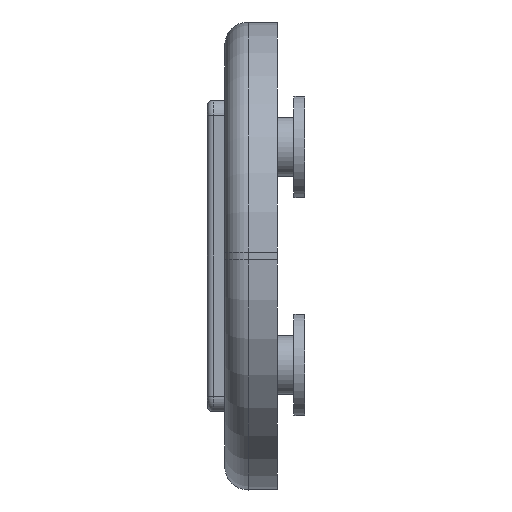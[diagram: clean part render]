
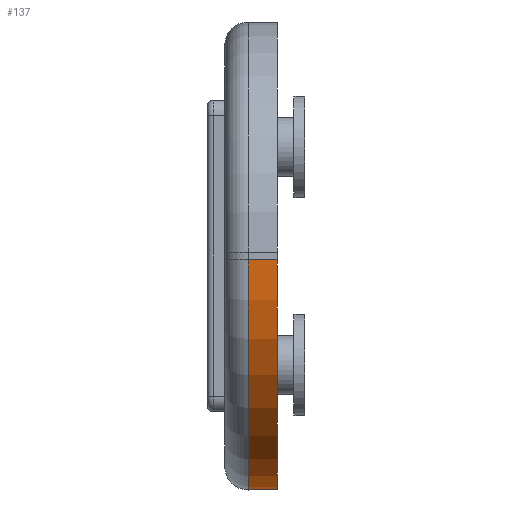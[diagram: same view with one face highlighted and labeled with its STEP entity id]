
A CAD part, front view. The second image highlights one B-rep face of the part: STEP entity #137.
In plain terms, the highlighted cylindrical face has radius 5.9 mm (diameter 11.8 mm), a partial arc.
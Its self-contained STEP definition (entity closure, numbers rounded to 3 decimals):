
#21 = EDGE_CURVE('',#22,#24,#26,.T.);
#22 = VERTEX_POINT('',#23);
#23 = CARTESIAN_POINT('',(-40.85,-15.,-12.1));
#24 = VERTEX_POINT('',#25);
#25 = CARTESIAN_POINT('',(-40.1,-15.,-12.1));
#26 = SURFACE_CURVE('',#27,(#31,#43),.PCURVE_S1.);
#27 = LINE('',#28,#29);
#28 = CARTESIAN_POINT('',(-41.45,-15.,-12.1));
#29 = VECTOR('',#30,1.);
#30 = DIRECTION('',(1.,0.,0.));
#31 = PCURVE('',#32,#37);
#32 = PLANE('',#33);
#33 = AXIS2_PLACEMENT_3D('',#34,#35,#36);
#34 = CARTESIAN_POINT('',(-41.45,-15.,-12.1));
#35 = DIRECTION('',(0.,-1.,0.));
#36 = DIRECTION('',(0.,0.,1.));
#37 = DEFINITIONAL_REPRESENTATION('',(#38),#42);
#38 = LINE('',#39,#40);
#39 = CARTESIAN_POINT('',(0.,0.));
#40 = VECTOR('',#41,1.);
#41 = DIRECTION('',(0.,-1.));
#42 = ( GEOMETRIC_REPRESENTATION_CONTEXT(2) 
PARAMETRIC_REPRESENTATION_CONTEXT() REPRESENTATION_CONTEXT('2D SPACE',''
  ) );
#43 = PCURVE('',#44,#49);
#44 = CYLINDRICAL_SURFACE('',#45,5.9);
#45 = AXIS2_PLACEMENT_3D('',#46,#47,#48);
#46 = CARTESIAN_POINT('',(-41.45,-9.1,-12.1));
#47 = DIRECTION('',(-1.,0.,0.));
#48 = DIRECTION('',(0.,-1.,0.));
#49 = DEFINITIONAL_REPRESENTATION('',(#50),#54);
#50 = LINE('',#51,#52);
#51 = CARTESIAN_POINT('',(6.283,0.));
#52 = VECTOR('',#53,1.);
#53 = DIRECTION('',(0.,-1.));
#54 = ( GEOMETRIC_REPRESENTATION_CONTEXT(2) 
PARAMETRIC_REPRESENTATION_CONTEXT() REPRESENTATION_CONTEXT('2D SPACE',''
  ) );
#72 = PLANE('',#73);
#73 = AXIS2_PLACEMENT_3D('',#74,#75,#76);
#74 = CARTESIAN_POINT('',(-40.1,12.,-12.));
#75 = DIRECTION('',(1.,0.,0.));
#76 = DIRECTION('',(0.,1.,0.));
#137 = ADVANCED_FACE('',(#138),#44,.T.);
#138 = FACE_BOUND('',#139,.T.);
#139 = EDGE_LOOP('',(#140,#170,#196,#197));
#140 = ORIENTED_EDGE('',*,*,#141,.T.);
#141 = EDGE_CURVE('',#142,#144,#146,.T.);
#142 = VERTEX_POINT('',#143);
#143 = CARTESIAN_POINT('',(-40.85,-9.1,-18.));
#144 = VERTEX_POINT('',#145);
#145 = CARTESIAN_POINT('',(-40.1,-9.1,-18.));
#146 = SURFACE_CURVE('',#147,(#151,#158),.PCURVE_S1.);
#147 = LINE('',#148,#149);
#148 = CARTESIAN_POINT('',(-41.45,-9.1,-18.));
#149 = VECTOR('',#150,1.);
#150 = DIRECTION('',(1.,0.,0.));
#151 = PCURVE('',#44,#152);
#152 = DEFINITIONAL_REPRESENTATION('',(#153),#157);
#153 = LINE('',#154,#155);
#154 = CARTESIAN_POINT('',(4.712,0.));
#155 = VECTOR('',#156,1.);
#156 = DIRECTION('',(0.,-1.));
#157 = ( GEOMETRIC_REPRESENTATION_CONTEXT(2) 
PARAMETRIC_REPRESENTATION_CONTEXT() REPRESENTATION_CONTEXT('2D SPACE',''
  ) );
#158 = PCURVE('',#159,#164);
#159 = PLANE('',#160);
#160 = AXIS2_PLACEMENT_3D('',#161,#162,#163);
#161 = CARTESIAN_POINT('',(-41.45,-9.1,-18.));
#162 = DIRECTION('',(0.,0.,1.));
#163 = DIRECTION('',(0.,1.,0.));
#164 = DEFINITIONAL_REPRESENTATION('',(#165),#169);
#165 = LINE('',#166,#167);
#166 = CARTESIAN_POINT('',(0.,0.));
#167 = VECTOR('',#168,1.);
#168 = DIRECTION('',(0.,-1.));
#169 = ( GEOMETRIC_REPRESENTATION_CONTEXT(2) 
PARAMETRIC_REPRESENTATION_CONTEXT() REPRESENTATION_CONTEXT('2D SPACE',''
  ) );
#170 = ORIENTED_EDGE('',*,*,#171,.T.);
#171 = EDGE_CURVE('',#144,#24,#172,.T.);
#172 = SURFACE_CURVE('',#173,(#178,#185),.PCURVE_S1.);
#173 = CIRCLE('',#174,5.9);
#174 = AXIS2_PLACEMENT_3D('',#175,#176,#177);
#175 = CARTESIAN_POINT('',(-40.1,-9.1,-12.1));
#176 = DIRECTION('',(-1.,0.,0.));
#177 = DIRECTION('',(0.,-1.,0.));
#178 = PCURVE('',#44,#179);
#179 = DEFINITIONAL_REPRESENTATION('',(#180),#184);
#180 = LINE('',#181,#182);
#181 = CARTESIAN_POINT('',(0.,-1.35));
#182 = VECTOR('',#183,1.);
#183 = DIRECTION('',(1.,0.));
#184 = ( GEOMETRIC_REPRESENTATION_CONTEXT(2) 
PARAMETRIC_REPRESENTATION_CONTEXT() REPRESENTATION_CONTEXT('2D SPACE',''
  ) );
#185 = PCURVE('',#72,#186);
#186 = DEFINITIONAL_REPRESENTATION('',(#187),#195);
#187 = ( BOUNDED_CURVE() B_SPLINE_CURVE(2,(#188,#189,#190,#191,#192,#193
,#194),.UNSPECIFIED.,.T.,.F.) B_SPLINE_CURVE_WITH_KNOTS((1,2,2,2,2,1),(
    -2.094,0.,2.094,4.189,6.283,
8.378),.UNSPECIFIED.) CURVE() GEOMETRIC_REPRESENTATION_ITEM() 
RATIONAL_B_SPLINE_CURVE((1.,0.5,1.,0.5,1.,0.5,1.)) REPRESENTATION_ITEM(
  '') );
#188 = CARTESIAN_POINT('',(-27.,-0.1));
#189 = CARTESIAN_POINT('',(-27.,10.119));
#190 = CARTESIAN_POINT('',(-18.15,5.01));
#191 = CARTESIAN_POINT('',(-9.3,-0.1));
#192 = CARTESIAN_POINT('',(-18.15,-5.21));
#193 = CARTESIAN_POINT('',(-27.,-10.319));
#194 = CARTESIAN_POINT('',(-27.,-0.1));
#195 = ( GEOMETRIC_REPRESENTATION_CONTEXT(2) 
PARAMETRIC_REPRESENTATION_CONTEXT() REPRESENTATION_CONTEXT('2D SPACE',''
  ) );
#196 = ORIENTED_EDGE('',*,*,#21,.F.);
#197 = ORIENTED_EDGE('',*,*,#198,.F.);
#198 = EDGE_CURVE('',#142,#22,#199,.T.);
#199 = SURFACE_CURVE('',#200,(#205,#212),.PCURVE_S1.);
#200 = CIRCLE('',#201,5.9);
#201 = AXIS2_PLACEMENT_3D('',#202,#203,#204);
#202 = CARTESIAN_POINT('',(-40.85,-9.1,-12.1));
#203 = DIRECTION('',(-1.,-0.,-0.));
#204 = DIRECTION('',(0.,0.,-1.));
#205 = PCURVE('',#44,#206);
#206 = DEFINITIONAL_REPRESENTATION('',(#207),#211);
#207 = LINE('',#208,#209);
#208 = CARTESIAN_POINT('',(4.712,-0.6));
#209 = VECTOR('',#210,1.);
#210 = DIRECTION('',(1.,0.));
#211 = ( GEOMETRIC_REPRESENTATION_CONTEXT(2) 
PARAMETRIC_REPRESENTATION_CONTEXT() REPRESENTATION_CONTEXT('2D SPACE',''
  ) );
#212 = PCURVE('',#213,#218);
#213 = TOROIDAL_SURFACE('',#214,5.3,0.6);
#214 = AXIS2_PLACEMENT_3D('',#215,#216,#217);
#215 = CARTESIAN_POINT('',(-40.85,-9.1,-12.1));
#216 = DIRECTION('',(-1.,-0.,-0.));
#217 = DIRECTION('',(0.,0.,-1.));
#218 = DEFINITIONAL_REPRESENTATION('',(#219),#223);
#219 = LINE('',#220,#221);
#220 = CARTESIAN_POINT('',(0.,0.));
#221 = VECTOR('',#222,1.);
#222 = DIRECTION('',(1.,0.));
#223 = ( GEOMETRIC_REPRESENTATION_CONTEXT(2) 
PARAMETRIC_REPRESENTATION_CONTEXT() REPRESENTATION_CONTEXT('2D SPACE',''
  ) );
